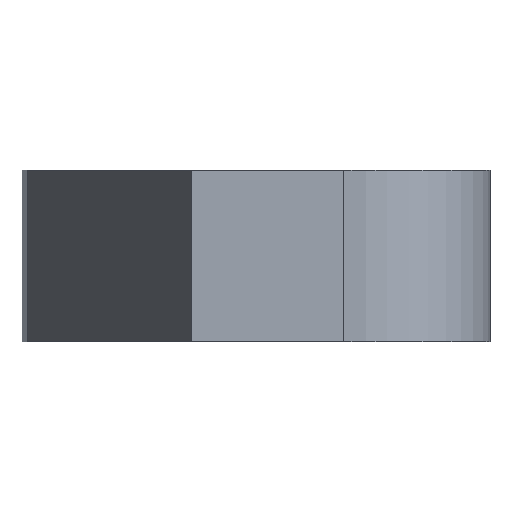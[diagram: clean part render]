
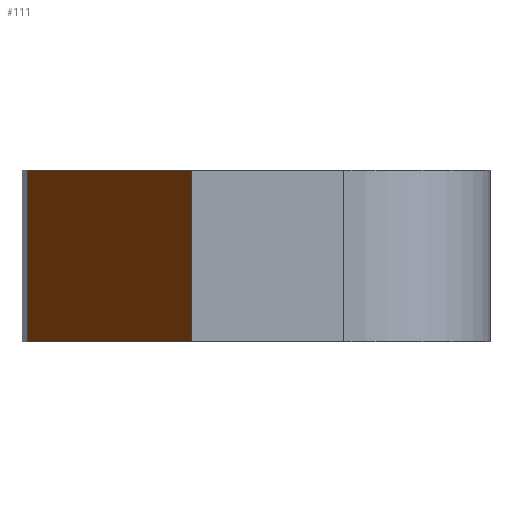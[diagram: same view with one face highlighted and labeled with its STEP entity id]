
A CAD part, front view. The second image highlights one B-rep face of the part: STEP entity #111.
In plain terms, the highlighted planar face has unit normal (-0.892, -0.453, 0).
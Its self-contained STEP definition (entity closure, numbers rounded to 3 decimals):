
#54 = EDGE_CURVE ( 'NONE', #996, #1257, #498, .T. ) ;
#111 = ADVANCED_FACE ( 'NONE', ( #866 ), #594, .T. ) ;
#157 = CARTESIAN_POINT ( 'NONE',  ( 9.908, 3.322, -10. ) ) ;
#177 = DIRECTION ( 'NONE',  ( -0.892, -0.453, 0. ) ) ;
#190 = LINE ( 'NONE', #578, #696 ) ;
#248 = EDGE_CURVE ( 'NONE', #645, #667, #190, .T. ) ;
#352 = CARTESIAN_POINT ( 'NONE',  ( 0.321, 22.211, 0. ) ) ;
#392 = VECTOR ( 'NONE', #634, 1000. ) ;
#424 = ORIENTED_EDGE ( 'NONE', *, *, #54, .F. ) ;
#441 = EDGE_CURVE ( 'NONE', #1257, #667, #617, .T. ) ;
#451 = DIRECTION ( 'NONE',  ( 0.453, -0.892, 0. ) ) ;
#469 = EDGE_CURVE ( 'NONE', #996, #645, #706, .T. ) ;
#498 = LINE ( 'NONE', #1056, #1143 ) ;
#551 = CARTESIAN_POINT ( 'NONE',  ( 0.321, 22.211, -10. ) ) ;
#578 = CARTESIAN_POINT ( 'NONE',  ( 9.908, 3.322, -10. ) ) ;
#594 = PLANE ( 'NONE',  #877 ) ;
#617 = LINE ( 'NONE', #1093, #942 ) ;
#634 = DIRECTION ( 'NONE',  ( 0.453, -0.892, 0. ) ) ;
#645 = VERTEX_POINT ( 'NONE', #157 ) ;
#667 = VERTEX_POINT ( 'NONE', #1227 ) ;
#696 = VECTOR ( 'NONE', #870, 1000. ) ;
#706 = LINE ( 'NONE', #721, #392 ) ;
#721 = CARTESIAN_POINT ( 'NONE',  ( 9.908, 3.322, -10. ) ) ;
#777 = DIRECTION ( 'NONE',  ( 0.453, -0.892, 0. ) ) ;
#866 = FACE_OUTER_BOUND ( 'NONE', #1008, .T. ) ;
#870 = DIRECTION ( 'NONE',  ( 0., 0., 1. ) ) ;
#877 = AXIS2_PLACEMENT_3D ( 'NONE', #1252, #177, #777 ) ;
#901 = ORIENTED_EDGE ( 'NONE', *, *, #441, .F. ) ;
#942 = VECTOR ( 'NONE', #451, 1000. ) ;
#996 = VERTEX_POINT ( 'NONE', #551 ) ;
#1008 = EDGE_LOOP ( 'NONE', ( #901, #424, #1181, #1102 ) ) ;
#1056 = CARTESIAN_POINT ( 'NONE',  ( 0.321, 22.211, -10. ) ) ;
#1093 = CARTESIAN_POINT ( 'NONE',  ( 9.908, 3.322, 0. ) ) ;
#1102 = ORIENTED_EDGE ( 'NONE', *, *, #248, .T. ) ;
#1143 = VECTOR ( 'NONE', #1155, 1000. ) ;
#1155 = DIRECTION ( 'NONE',  ( 0., 0., 1. ) ) ;
#1181 = ORIENTED_EDGE ( 'NONE', *, *, #469, .T. ) ;
#1227 = CARTESIAN_POINT ( 'NONE',  ( 9.908, 3.322, 0. ) ) ;
#1252 = CARTESIAN_POINT ( 'NONE',  ( 9.908, 3.322, -10. ) ) ;
#1257 = VERTEX_POINT ( 'NONE', #352 ) ;
